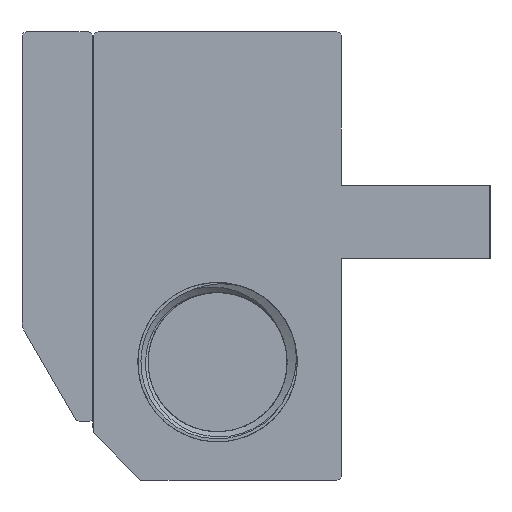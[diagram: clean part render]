
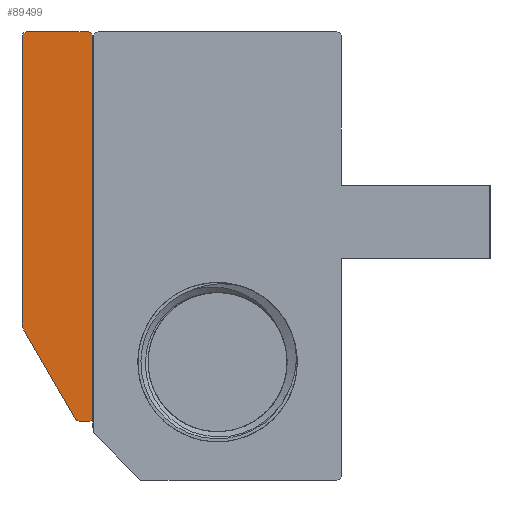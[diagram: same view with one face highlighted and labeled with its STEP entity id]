
A CAD part, left-side view. The second image highlights one B-rep face of the part: STEP entity #89499.
In plain terms, the highlighted planar face has unit normal (-1, 0, 0).
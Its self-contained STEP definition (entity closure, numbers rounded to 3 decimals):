
#4449 = CARTESIAN_POINT ( 'NONE',  ( -165., 21.33, -33. ) ) ;
#7034 = AXIS2_PLACEMENT_3D ( 'NONE', #47433, #61886, #175580 ) ;
#7094 = FACE_OUTER_BOUND ( 'NONE', #34489, .T. ) ;
#11572 = VECTOR ( 'NONE', #27463, 1000. ) ;
#13314 = VERTEX_POINT ( 'NONE', #148620 ) ;
#13557 = DIRECTION ( 'NONE',  ( 0., 0., -1. ) ) ;
#17061 = VERTEX_POINT ( 'NONE', #129861 ) ;
#19351 = ORIENTED_EDGE ( 'NONE', *, *, #83472, .T. ) ;
#21214 = CARTESIAN_POINT ( 'NONE',  ( -165., 21.33, -32.75 ) ) ;
#24871 = VERTEX_POINT ( 'NONE', #54201 ) ;
#27463 = DIRECTION ( 'NONE',  ( 0., 1., 0. ) ) ;
#27633 = LINE ( 'NONE', #78947, #126194 ) ;
#31316 = AXIS2_PLACEMENT_3D ( 'NONE', #65330, #53920, #174983 ) ;
#33779 = ORIENTED_EDGE ( 'NONE', *, *, #80158, .T. ) ;
#33840 = CIRCLE ( 'NONE', #177952, 0.4 ) ;
#34489 = EDGE_LOOP ( 'NONE', ( #166569, #158911, #33779, #114189, #80849, #192964, #60370, #122142, #150869, #19351 ) ) ;
#40641 = AXIS2_PLACEMENT_3D ( 'NONE', #21214, #114696, #80858 ) ;
#41854 = VERTEX_POINT ( 'NONE', #159107 ) ;
#47433 = CARTESIAN_POINT ( 'NONE',  ( -165., 21.48, -0.4 ) ) ;
#47475 = CARTESIAN_POINT ( 'NONE',  ( -165., 25.88, -24.678 ) ) ;
#48461 = DIRECTION ( 'NONE',  ( 0., -1., 0. ) ) ;
#52179 = EDGE_CURVE ( 'NONE', #123939, #188023, #63581, .T. ) ;
#53920 = DIRECTION ( 'NONE',  ( -1., 0., 0. ) ) ;
#54201 = CARTESIAN_POINT ( 'NONE',  ( -165., 21.08, -0.4 ) ) ;
#54416 = PLANE ( 'NONE',  #203166 ) ;
#56045 = EDGE_CURVE ( 'NONE', #106817, #145860, #57651, .T. ) ;
#57651 = LINE ( 'NONE', #120228, #169118 ) ;
#60370 = ORIENTED_EDGE ( 'NONE', *, *, #142657, .T. ) ;
#60394 = DIRECTION ( 'NONE',  ( 0., 0., 1. ) ) ;
#61386 = LINE ( 'NONE', #79789, #84899 ) ;
#61886 = DIRECTION ( 'NONE',  ( -1., 0., 0. ) ) ;
#63581 = CIRCLE ( 'NONE', #40641, 0.25 ) ;
#65330 = CARTESIAN_POINT ( 'NONE',  ( -165., 26.68, -0.4 ) ) ;
#72835 = CARTESIAN_POINT ( 'NONE',  ( -165., 21.08, -33. ) ) ;
#74043 = DIRECTION ( 'NONE',  ( 0., 0., -1. ) ) ;
#78947 = CARTESIAN_POINT ( 'NONE',  ( -165., 22.461, -33. ) ) ;
#79789 = CARTESIAN_POINT ( 'NONE',  ( -165., 21.08, -33. ) ) ;
#80158 = EDGE_CURVE ( 'NONE', #41854, #13314, #27633, .T. ) ;
#80849 = ORIENTED_EDGE ( 'NONE', *, *, #132548, .T. ) ;
#80858 = DIRECTION ( 'NONE',  ( 0., 0., -1. ) ) ;
#83472 = EDGE_CURVE ( 'NONE', #163947, #106817, #136206, .T. ) ;
#84899 = VECTOR ( 'NONE', #60394, 1000. ) ;
#89499 = ADVANCED_FACE ( 'NONE', ( #7094 ), #54416, .F. ) ;
#89541 = DIRECTION ( 'NONE',  ( 0., 0., -1. ) ) ;
#100241 = EDGE_CURVE ( 'NONE', #145860, #41854, #161162, .T. ) ;
#102634 = DIRECTION ( 'NONE',  ( 0., 0., -1. ) ) ;
#102709 = CARTESIAN_POINT ( 'NONE',  ( -165., 27.08, -0.4 ) ) ;
#106817 = VERTEX_POINT ( 'NONE', #102709 ) ;
#114189 = ORIENTED_EDGE ( 'NONE', *, *, #189847, .T. ) ;
#114696 = DIRECTION ( 'NONE',  ( -1., 0., 0. ) ) ;
#120228 = CARTESIAN_POINT ( 'NONE',  ( -165., 27.08, -33. ) ) ;
#120336 = CARTESIAN_POINT ( 'NONE',  ( -165., 26.68, 0. ) ) ;
#122142 = ORIENTED_EDGE ( 'NONE', *, *, #197159, .T. ) ;
#123939 = VERTEX_POINT ( 'NONE', #4449 ) ;
#126194 = VECTOR ( 'NONE', #141485, 1000. ) ;
#126477 = LINE ( 'NONE', #188984, #129453 ) ;
#127473 = EDGE_CURVE ( 'NONE', #17061, #163947, #136245, .T. ) ;
#129453 = VECTOR ( 'NONE', #48461, 1000. ) ;
#129728 = VERTEX_POINT ( 'NONE', #163961 ) ;
#129861 = CARTESIAN_POINT ( 'NONE',  ( -165., 21.48, 0. ) ) ;
#132548 = EDGE_CURVE ( 'NONE', #129728, #123939, #126477, .T. ) ;
#134236 = CARTESIAN_POINT ( 'NONE',  ( -165., 21.08, 0. ) ) ;
#134374 = DIRECTION ( 'NONE',  ( 1., 0., 0. ) ) ;
#134855 = CIRCLE ( 'NONE', #7034, 0.4 ) ;
#134989 = AXIS2_PLACEMENT_3D ( 'NONE', #47475, #172559, #13557 ) ;
#136206 = CIRCLE ( 'NONE', #31316, 0.4 ) ;
#136245 = LINE ( 'NONE', #134236, #11572 ) ;
#141485 = DIRECTION ( 'NONE',  ( 0., -0.5, -0.866 ) ) ;
#142657 = EDGE_CURVE ( 'NONE', #188023, #24871, #61386, .T. ) ;
#145860 = VERTEX_POINT ( 'NONE', #177540 ) ;
#148620 = CARTESIAN_POINT ( 'NONE',  ( -165., 22.577, -32.8 ) ) ;
#150869 = ORIENTED_EDGE ( 'NONE', *, *, #127473, .T. ) ;
#151028 = CARTESIAN_POINT ( 'NONE',  ( -165., 22.23, -32.6 ) ) ;
#158911 = ORIENTED_EDGE ( 'NONE', *, *, #100241, .T. ) ;
#159107 = CARTESIAN_POINT ( 'NONE',  ( -165., 26.919, -25.278 ) ) ;
#161162 = CIRCLE ( 'NONE', #134989, 1.2 ) ;
#163947 = VERTEX_POINT ( 'NONE', #120336 ) ;
#163961 = CARTESIAN_POINT ( 'NONE',  ( -165., 22.23, -33. ) ) ;
#166569 = ORIENTED_EDGE ( 'NONE', *, *, #56045, .T. ) ;
#169118 = VECTOR ( 'NONE', #74043, 1000. ) ;
#170125 = CARTESIAN_POINT ( 'NONE',  ( -165., 21.08, -32.75 ) ) ;
#172559 = DIRECTION ( 'NONE',  ( -1., 0., 0. ) ) ;
#174983 = DIRECTION ( 'NONE',  ( 0., 0., -1. ) ) ;
#175580 = DIRECTION ( 'NONE',  ( 0., 0., -1. ) ) ;
#177540 = CARTESIAN_POINT ( 'NONE',  ( -165., 27.08, -24.678 ) ) ;
#177952 = AXIS2_PLACEMENT_3D ( 'NONE', #151028, #185814, #89541 ) ;
#185814 = DIRECTION ( 'NONE',  ( -1., 0., 0. ) ) ;
#188023 = VERTEX_POINT ( 'NONE', #170125 ) ;
#188984 = CARTESIAN_POINT ( 'NONE',  ( -165., 21.08, -33. ) ) ;
#189847 = EDGE_CURVE ( 'NONE', #13314, #129728, #33840, .T. ) ;
#192964 = ORIENTED_EDGE ( 'NONE', *, *, #52179, .T. ) ;
#197159 = EDGE_CURVE ( 'NONE', #24871, #17061, #134855, .T. ) ;
#203166 = AXIS2_PLACEMENT_3D ( 'NONE', #72835, #134374, #102634 ) ;
